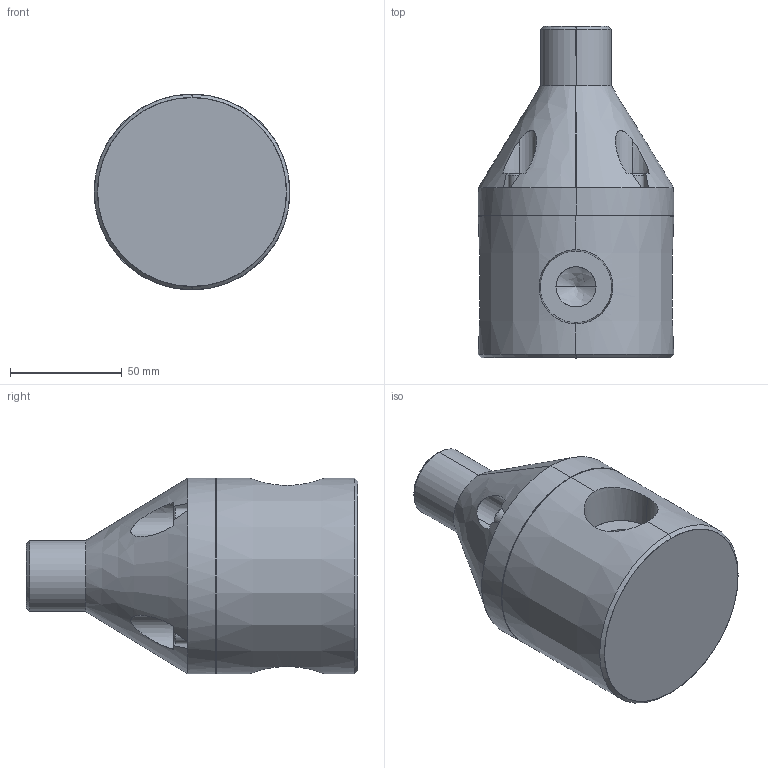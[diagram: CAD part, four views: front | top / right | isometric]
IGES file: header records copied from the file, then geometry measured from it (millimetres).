
Start section: SolidWorks IGES file using analytic representation for surfaces
Global section: file name: F:\Griffco-Valve\Griffco_current-projects\GV_web-files_2015\G Series\GBP1000-BSPT.IGS; native system: SolidWorks 2008; preprocessor: SolidWorks 2008; author: Dan; date: 150427.060239; units: inch
Bounding box: 87.63 x 148.59 x 87.63 mm (x, y, z)
Surface area: 53905.1 mm2 (no closed solid volume)
Topology: 0 solids, 0 shells, 127 faces, 2124 edges, 2120 vertices
Faces by surface type: bspline 71, revolution 56
